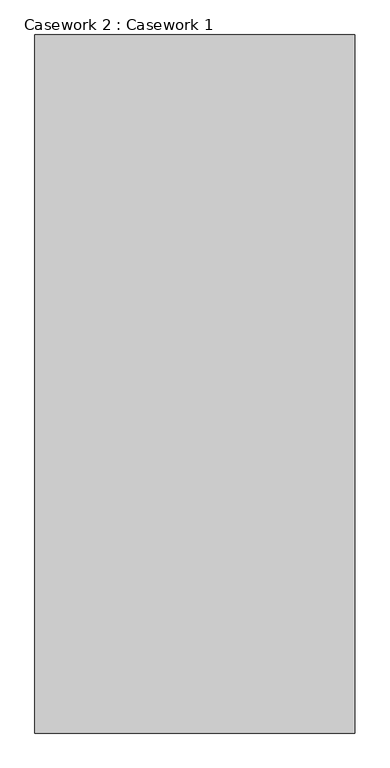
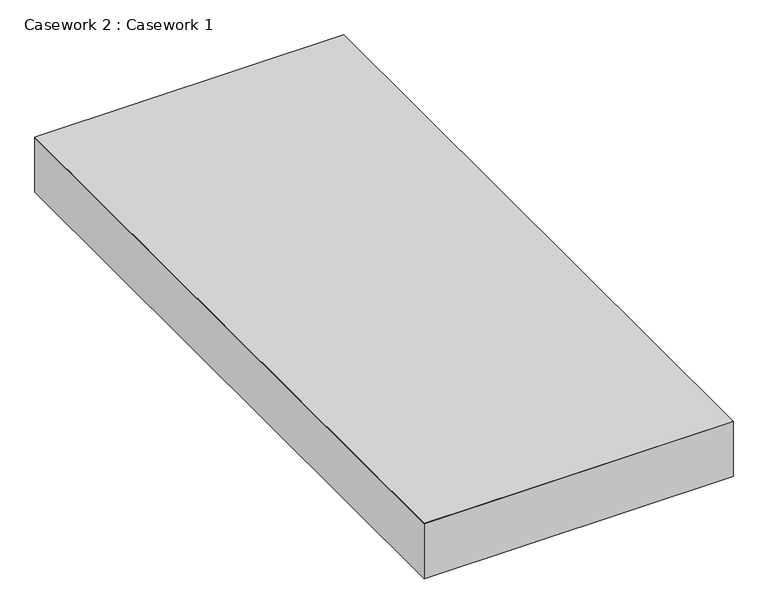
"""IFC4 building model written with IfcOpenShell, lengths in millimetres: furniture geometry, Casework 2 : Casework 1."""

from ifc_helpers import new_model, si_unit, frame, origin, origin_with_axes, place, context, project, spatial, polyline, outline, extrude, source, transform, mapped, element, save


def casework_2_casework_1_4ff3fe48(model_context):
    return source(origin(), model_context, "Body", "SweptSolid", [
        extrude(outline(polyline([(2600.9191434, 4900.0), (2600.9191434, 2500.0), (1500.9191434, 2500.0), (1500.9191434, 4900.0), (2600.9191434, 4900.0)])), frame((0.0, 0.0, 207.2904001), z_axis=(0.0, 0.0, 1.0), x_axis=(1.0, 0.0, 0.0)), (0.0, 0.0, 1.0), 0.528651),
        extrude(outline(polyline([(2600.9191434, 4900.0), (2600.9191434, 2500.0), (1500.9191434, 2500.0), (1500.9191434, 4900.0), (2600.9191434, 4900.0)])), origin_with_axes(), (0.0, 0.0, 1.0), 206.7357929),
    ])


if __name__ == "__main__":
    model = new_model("IFC4")
    model_context = context("Model", 3, world=origin())
    ifc_project = project(units=[si_unit("LENGTHUNIT", "METRE", prefix="MILLI")], contexts=[model_context])
    site = spatial("IfcSite", under=ifc_project)
    building = spatial("IfcBuilding", under=site)
    placement = place(None, origin())
    casework_2_casework_1_shape = casework_2_casework_1_4ff3fe48(model_context)
    element("IfcFurniture", 1, ObjectType="Casework 2 : Casework 1", at=placement, inside=building, context=model_context, shape_type="MappedRepresentation", body=[
        mapped(casework_2_casework_1_shape, transform((0.0, 0.0, 0.0), x_axis=(1.0, 0.0, 0.0), y_axis=(0.0, 1.0, 0.0), z_axis=(0.0, 0.0, 1.0))),
    ])
    save(model, "model.ifc")
